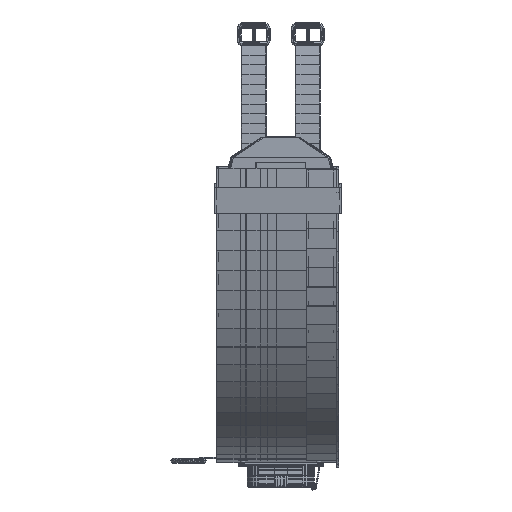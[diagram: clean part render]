
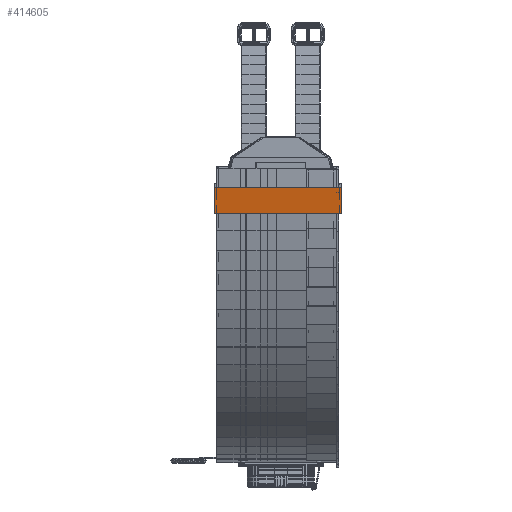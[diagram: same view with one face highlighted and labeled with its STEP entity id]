
A CAD part, left-side view. The second image highlights one B-rep face of the part: STEP entity #414605.
In plain terms, the highlighted planar face has unit normal (-0.986, 0, -0.17).
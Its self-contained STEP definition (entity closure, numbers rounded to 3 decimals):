
#414444=DIRECTION('',(0.0,-1.0,0.0));
#414445=VECTOR('',#414444,126.4);
#414446=CARTESIAN_POINT('',(-260.957,66.2,254.698));
#414447=LINE('',#414446,#414445);
#414448=VERTEX_POINT('',#414446);
#414449=CARTESIAN_POINT('',(-260.957,-60.2,254.698));
#414450=VERTEX_POINT('',#414449);
#414451=EDGE_CURVE('',#414448,#414450,#414447,.T.);
#414460=DIRECTION('',(0.0,1.0,0.0));
#414515=CARTESIAN_POINT('',(-256.476,-60.2,228.699));
#414516=VERTEX_POINT('',#414515);
#414519=VECTOR('',#414460,126.4);
#414520=LINE('',#414515,#414519);
#414521=CARTESIAN_POINT('',(-256.476,66.2,228.699));
#414522=VERTEX_POINT('',#414521);
#414523=EDGE_CURVE('',#414516,#414522,#414520,.T.);
#414580=DIRECTION('',(0.17,0.0,-0.985));
#414581=VECTOR('',#414580,26.382);
#414582=LINE('',#414449,#414581);
#414583=EDGE_CURVE('',#414450,#414516,#414582,.T.);
#414593=ORIENTED_EDGE('',*,*,#414451,.F.);
#414594=VECTOR('',#414580,26.382);
#414595=LINE('',#414446,#414594);
#414596=EDGE_CURVE('',#414448,#414522,#414595,.T.);
#414597=ORIENTED_EDGE('',*,*,#414596,.T.);
#414598=ORIENTED_EDGE('',*,*,#414523,.F.);
#414599=ORIENTED_EDGE('',*,*,#414583,.F.);
#414600=EDGE_LOOP('',(#414593,#414597,#414598,#414599));
#414601=FACE_OUTER_BOUND('',#414600,.T.);
#414602=DIRECTION('',(-0.985,0.0,-0.17));
#414603=AXIS2_PLACEMENT_3D('',#414449,#414602,#414460);
#414604=PLANE('',#414603);
#414605=ADVANCED_FACE('',(#414601),#414604,.T.);
